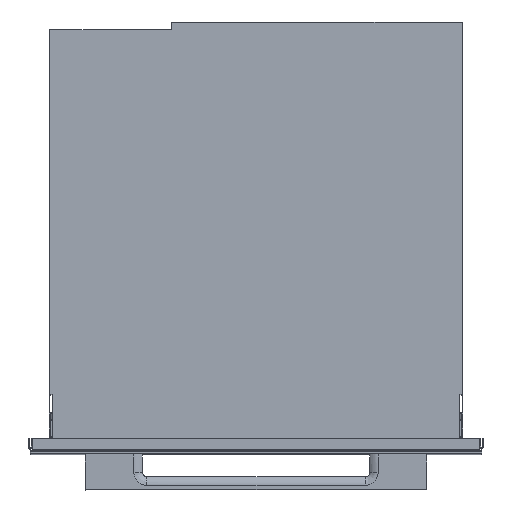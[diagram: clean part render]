
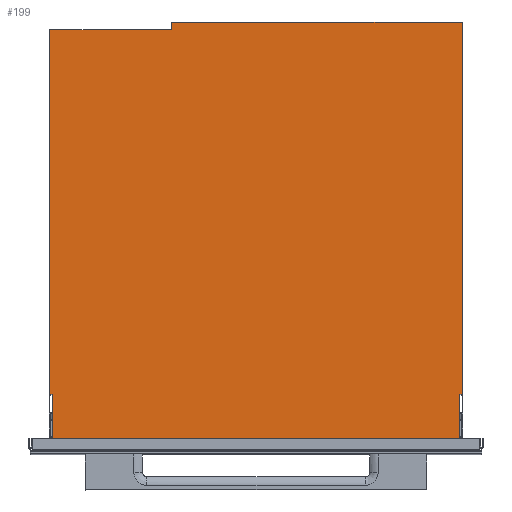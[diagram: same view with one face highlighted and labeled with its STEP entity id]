
A CAD part, top view. The second image highlights one B-rep face of the part: STEP entity #199.
In plain terms, the highlighted planar face has unit normal (0, 0, 1).
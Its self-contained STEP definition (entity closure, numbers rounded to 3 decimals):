
#199=ADVANCED_FACE('',(#547),#5168,.T.);
#547=FACE_OUTER_BOUND('',#895,.T.);
#895=EDGE_LOOP('',(#1378,#1379,#1380,#1381,#1382,#1383,#1384,#1385,#1386,
#1387));
#1378=ORIENTED_EDGE('',*,*,#2938,.T.);
#1379=ORIENTED_EDGE('',*,*,#2939,.T.);
#1380=ORIENTED_EDGE('',*,*,#2940,.T.);
#1381=ORIENTED_EDGE('',*,*,#2941,.T.);
#1382=ORIENTED_EDGE('',*,*,#2942,.T.);
#1383=ORIENTED_EDGE('',*,*,#2943,.T.);
#1384=ORIENTED_EDGE('',*,*,#2944,.T.);
#1385=ORIENTED_EDGE('',*,*,#2945,.T.);
#1386=ORIENTED_EDGE('',*,*,#2946,.T.);
#1387=ORIENTED_EDGE('',*,*,#2947,.T.);
#2938=EDGE_CURVE('',#4546,#4547,#4061,.T.);
#2939=EDGE_CURVE('',#4547,#4548,#4062,.T.);
#2940=EDGE_CURVE('',#4548,#4549,#4063,.T.);
#2941=EDGE_CURVE('',#4549,#4550,#4064,.T.);
#2942=EDGE_CURVE('',#4550,#4551,#4065,.T.);
#2943=EDGE_CURVE('',#4551,#4552,#4066,.T.);
#2944=EDGE_CURVE('',#4552,#4553,#4067,.T.);
#2945=EDGE_CURVE('',#4553,#4554,#4068,.T.);
#2946=EDGE_CURVE('',#4554,#4555,#4069,.T.);
#2947=EDGE_CURVE('',#4555,#4546,#4070,.T.);
#4061=B_SPLINE_CURVE_WITH_KNOTS('',1,(#7681,#7682),.UNSPECIFIED.,.F.,.F.,
(2,2),(-160.,0.),.UNSPECIFIED.);
#4062=B_SPLINE_CURVE_WITH_KNOTS('',1,(#7683,#7684),.UNSPECIFIED.,.F.,.F.,
(2,2),(-479.5,0.),.UNSPECIFIED.);
#4063=B_SPLINE_CURVE_WITH_KNOTS('',1,(#7685,#7686),.UNSPECIFIED.,.F.,.F.,
(2,2),(-3.,0.),.UNSPECIFIED.);
#4064=B_SPLINE_CURVE_WITH_KNOTS('',1,(#7687,#7688),.UNSPECIFIED.,.F.,.F.,
(2,2),(0.,58.),.UNSPECIFIED.);
#4065=B_SPLINE_CURVE_WITH_KNOTS('',1,(#7689,#7690),.UNSPECIFIED.,.F.,.F.,
(2,2),(0.,536.),.UNSPECIFIED.);
#4066=B_SPLINE_CURVE_WITH_KNOTS('',1,(#7691,#7692),.UNSPECIFIED.,.F.,.F.,
(2,2),(-58.,0.),.UNSPECIFIED.);
#4067=B_SPLINE_CURVE_WITH_KNOTS('',1,(#7693,#7694),.UNSPECIFIED.,.F.,.F.,
(2,2),(0.,3.),.UNSPECIFIED.);
#4068=B_SPLINE_CURVE_WITH_KNOTS('',1,(#7695,#7696),.UNSPECIFIED.,.F.,.F.,
(2,2),(0.,489.5),.UNSPECIFIED.);
#4069=B_SPLINE_CURVE_WITH_KNOTS('',1,(#7697,#7698),.UNSPECIFIED.,.F.,.F.,
(2,2),(-382.,0.),.UNSPECIFIED.);
#4070=B_SPLINE_CURVE_WITH_KNOTS('',1,(#7699,#7700),.UNSPECIFIED.,.F.,.F.,
(2,2),(-10.,0.),.UNSPECIFIED.);
#4546=VERTEX_POINT('',#7647);
#4547=VERTEX_POINT('',#7648);
#4548=VERTEX_POINT('',#7649);
#4549=VERTEX_POINT('',#7650);
#4550=VERTEX_POINT('',#7651);
#4551=VERTEX_POINT('',#7652);
#4552=VERTEX_POINT('',#7653);
#4553=VERTEX_POINT('',#7654);
#4554=VERTEX_POINT('',#7655);
#4555=VERTEX_POINT('',#7656);
#5168=PLANE('',#5376);
#5376=AXIS2_PLACEMENT_3D('',#7628,#5567,$);
#5567=DIRECTION('',(0.,0.,1.));
#7628=CARTESIAN_POINT('',(-325.212,-34.762,587.7));
#7647=CARTESIAN_POINT('',(-111.,557.5,587.7));
#7648=CARTESIAN_POINT('',(-271.,557.5,587.7));
#7649=CARTESIAN_POINT('',(-271.,78.,587.7));
#7650=CARTESIAN_POINT('',(-268.,78.,587.7));
#7651=CARTESIAN_POINT('',(-268.,20.,587.7));
#7652=CARTESIAN_POINT('',(268.,20.,587.7));
#7653=CARTESIAN_POINT('',(268.,78.,587.7));
#7654=CARTESIAN_POINT('',(271.,78.,587.7));
#7655=CARTESIAN_POINT('',(271.,567.5,587.7));
#7656=CARTESIAN_POINT('',(-111.,567.5,587.7));
#7681=CARTESIAN_POINT('',(-111.,557.5,587.7));
#7682=CARTESIAN_POINT('',(-271.,557.5,587.7));
#7683=CARTESIAN_POINT('',(-271.,557.5,587.7));
#7684=CARTESIAN_POINT('',(-271.,78.,587.7));
#7685=CARTESIAN_POINT('',(-271.,78.,587.7));
#7686=CARTESIAN_POINT('',(-268.,78.,587.7));
#7687=CARTESIAN_POINT('',(-268.,78.,587.7));
#7688=CARTESIAN_POINT('',(-268.,20.,587.7));
#7689=CARTESIAN_POINT('',(-268.,20.,587.7));
#7690=CARTESIAN_POINT('',(268.,20.,587.7));
#7691=CARTESIAN_POINT('',(268.,20.,587.7));
#7692=CARTESIAN_POINT('',(268.,78.,587.7));
#7693=CARTESIAN_POINT('',(268.,78.,587.7));
#7694=CARTESIAN_POINT('',(271.,78.,587.7));
#7695=CARTESIAN_POINT('',(271.,78.,587.7));
#7696=CARTESIAN_POINT('',(271.,567.5,587.7));
#7697=CARTESIAN_POINT('',(271.,567.5,587.7));
#7698=CARTESIAN_POINT('',(-111.,567.5,587.7));
#7699=CARTESIAN_POINT('',(-111.,567.5,587.7));
#7700=CARTESIAN_POINT('',(-111.,557.5,587.7));
